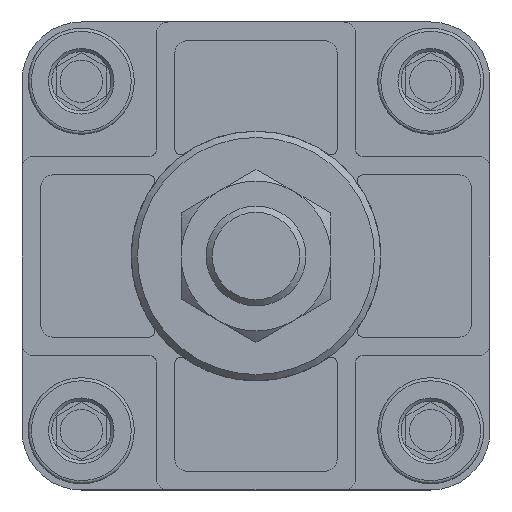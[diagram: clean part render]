
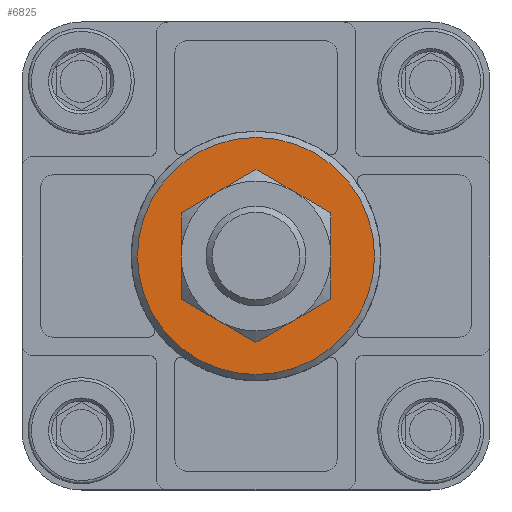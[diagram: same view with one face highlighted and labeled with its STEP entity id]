
A CAD part, front view. The second image highlights one B-rep face of the part: STEP entity #6825.
In plain terms, the highlighted planar face has unit normal (0, -1, 0).
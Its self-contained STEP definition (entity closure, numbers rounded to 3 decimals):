
#436=CIRCLE('',#7359,11.);
#437=CIRCLE('',#7360,19.);
#1432=ORIENTED_EDGE('',*,*,#2391,.T.);
#1433=ORIENTED_EDGE('',*,*,#2392,.T.);
#2391=EDGE_CURVE('',#2956,#2956,#436,.T.);
#2392=EDGE_CURVE('',#2957,#2957,#437,.F.);
#2956=VERTEX_POINT('',#10145);
#2957=VERTEX_POINT('',#10147);
#4166=EDGE_LOOP('',(#1432));
#4167=EDGE_LOOP('',(#1433));
#4592=FACE_BOUND('',#4166,.T.);
#4593=FACE_BOUND('',#4167,.T.);
#4877=PLANE('',#7358);
#6825=ADVANCED_FACE('',(#4592,#4593),#4877,.F.);
#7358=AXIS2_PLACEMENT_3D('',#10143,#8592,#8593);
#7359=AXIS2_PLACEMENT_3D('',#10144,#8594,#8595);
#7360=AXIS2_PLACEMENT_3D('',#10146,#8596,#8597);
#8592=DIRECTION('',(0.,1.,0.));
#8593=DIRECTION('',(0.,0.,1.));
#8594=DIRECTION('',(0.,1.,0.));
#8595=DIRECTION('',(0.,0.,1.));
#8596=DIRECTION('',(0.,1.,0.));
#8597=DIRECTION('',(0.,0.,1.));
#10143=CARTESIAN_POINT('',(0.,-48.5,0.));
#10144=CARTESIAN_POINT('',(0.,-48.5,0.));
#10145=CARTESIAN_POINT('',(0.,-48.5,11.));
#10146=CARTESIAN_POINT('',(0.,-48.5,0.));
#10147=CARTESIAN_POINT('',(0.,-48.5,19.));
